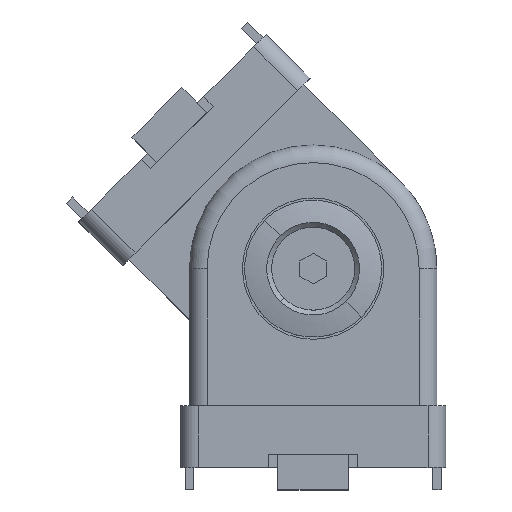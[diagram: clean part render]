
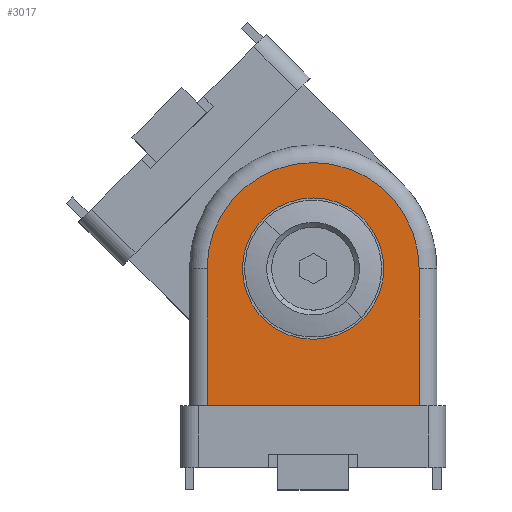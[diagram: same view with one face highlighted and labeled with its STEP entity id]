
A CAD part, top view. The second image highlights one B-rep face of the part: STEP entity #3017.
In plain terms, the highlighted planar face has unit normal (0, 0, 1).
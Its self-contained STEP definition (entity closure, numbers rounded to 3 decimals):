
#1345 = VERTEX_POINT( '', #3902 );
#1625 = EDGE_CURVE( '', #1345, #2113, #4208, .T. );
#1681 = EDGE_CURVE( '', #3253, #2853, #4268, .T. );
#1699 = EDGE_CURVE( '', #3253, #2163, #4289, .T. );
#2113 = VERTEX_POINT( '', #4748 );
#2163 = VERTEX_POINT( '', #4803 );
#2219 = VERTEX_POINT( '', #4872 );
#2749 = EDGE_CURVE( '', #2853, #2219, #5464, .T. );
#2853 = VERTEX_POINT( '', #5579 );
#3017 = ADVANCED_FACE( '', ( #5760, #5761 ), #5762, .T. );
#3143 = EDGE_CURVE( '', #2163, #2219, #5905, .T. );
#3253 = VERTEX_POINT( '', #6028 );
#3607 = EDGE_CURVE( '', #2113, #1345, #6415, .T. );
#3902 = CARTESIAN_POINT( '', ( 0., 23.5, 14. ) );
#4208 = CIRCLE( '', #7166, 8. );
#4268 = LINE( '', #7248, #7249 );
#4289 = LINE( '', #7274, #7275 );
#4748 = CARTESIAN_POINT( '', ( 0., 7.5, 14. ) );
#4803 = CARTESIAN_POINT( '', ( 12., 15.5, 14. ) );
#4872 = CARTESIAN_POINT( '', ( -12., 15.5, 14. ) );
#5464 = LINE( '', #8896, #8897 );
#5579 = CARTESIAN_POINT( '', ( -12., 0., 14. ) );
#5760 = FACE_BOUND( '', #9300, .T. );
#5761 = FACE_OUTER_BOUND( '', #9301, .T. );
#5762 = PLANE( '', #9302 );
#5905 = CIRCLE( '', #9485, 12. );
#6028 = CARTESIAN_POINT( '', ( 12., 0., 14. ) );
#6415 = CIRCLE( '', #10179, 8. );
#7166 = AXIS2_PLACEMENT_3D( '', #10901, #10902, #10903 );
#7248 = CARTESIAN_POINT( '', ( 6., 0., 14. ) );
#7249 = VECTOR( '', #10963, 1. );
#7274 = CARTESIAN_POINT( '', ( 12., 0., 14. ) );
#7275 = VECTOR( '', #10992, 1. );
#8896 = CARTESIAN_POINT( '', ( -12., 0., 14. ) );
#8897 = VECTOR( '', #12408, 1. );
#9300 = EDGE_LOOP( '', ( #12715, #12716 ) );
#9301 = EDGE_LOOP( '', ( #12717, #12718, #12719, #12720 ) );
#9302 = AXIS2_PLACEMENT_3D( '', #12721, #12722, #12723 );
#9485 = AXIS2_PLACEMENT_3D( '', #12888, #12889, #12890 );
#10179 = AXIS2_PLACEMENT_3D( '', #13440, #13441, #13442 );
#10901 = CARTESIAN_POINT( '', ( 0., 15.5, 14. ) );
#10902 = DIRECTION( '', ( 0., 0., -1. ) );
#10903 = DIRECTION( '', ( 0., 1., 0. ) );
#10963 = DIRECTION( '', ( -1., 0., 0. ) );
#10992 = DIRECTION( '', ( 0., 1., 0. ) );
#12408 = DIRECTION( '', ( 0., 1., 0. ) );
#12715 = ORIENTED_EDGE( '', *, *, #1625, .T. );
#12716 = ORIENTED_EDGE( '', *, *, #3607, .T. );
#12717 = ORIENTED_EDGE( '', *, *, #2749, .F. );
#12718 = ORIENTED_EDGE( '', *, *, #1681, .F. );
#12719 = ORIENTED_EDGE( '', *, *, #1699, .T. );
#12720 = ORIENTED_EDGE( '', *, *, #3143, .T. );
#12721 = CARTESIAN_POINT( '', ( 12., 0., 14. ) );
#12722 = DIRECTION( '', ( 0., 0., 1. ) );
#12723 = DIRECTION( '', ( 1., 0., 0. ) );
#12888 = CARTESIAN_POINT( '', ( 0., 15.5, 14. ) );
#12889 = DIRECTION( '', ( 0., 0., 1. ) );
#12890 = DIRECTION( '', ( 1., 0., 0. ) );
#13440 = CARTESIAN_POINT( '', ( 0., 15.5, 14. ) );
#13441 = DIRECTION( '', ( 0., 0., -1. ) );
#13442 = DIRECTION( '', ( 0., 1., 0. ) );
